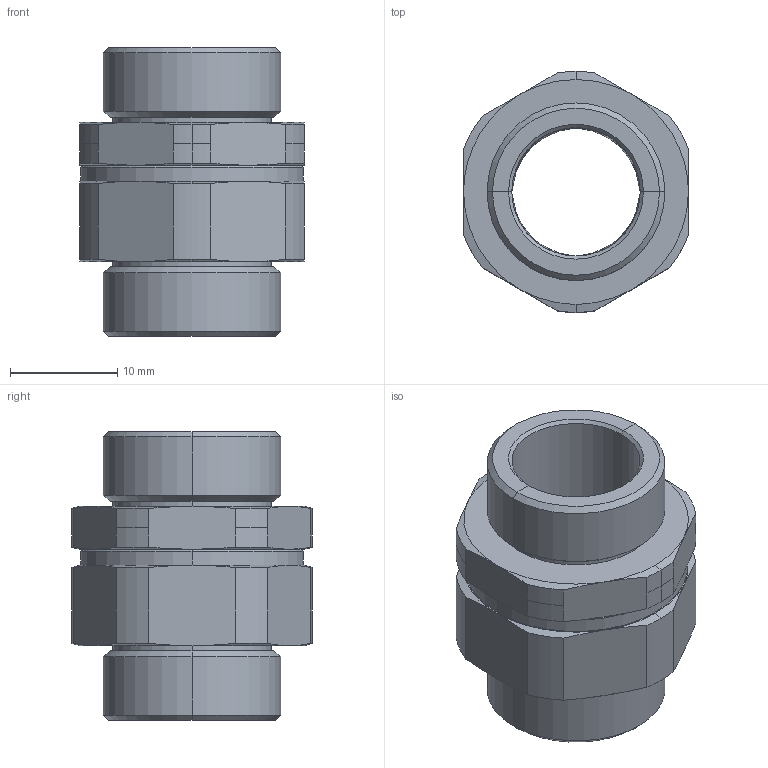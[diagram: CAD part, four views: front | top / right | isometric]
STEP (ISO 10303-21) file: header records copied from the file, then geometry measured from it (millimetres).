
FILE_DESCRIPTION(/* description */ (''),/* implementation_level */ '2;1');
FILE_NAME(/* name */ 'ADT_SMM_G38',/* time_stamp */ '2025-07-11T18:24:17+09:00',/* author */ (''),/* organization */ (''),/* preprocessor_version */ 'ST-DEVELOPER v19.2',/* originating_system */ 'Rhino 8.10',/* authorisation */ '');
FILE_SCHEMA (('CONFIG_CONTROL_DESIGN'));
Length unit declared in the file: millimetre
Products named in the file (1): Document
Bounding box: 21 x 22.5 x 27 mm (x, y, z)
Volume: 4433 mm3; surface area: 4600.3 mm2
Topology: 2 solids, 2 shells, 137 faces, 307 edges, 176 vertices
Faces by surface type: bspline 53, cylinder 46, plane 38
Entity records: 5003 total; most frequent: CARTESIAN_POINT 2458, ORIENTED_EDGE 604, DIRECTION 312, EDGE_CURVE 302, AXIS2_PLACEMENT_3D 198, VERTEX_POINT 170, B_SPLINE_CURVE_WITH_KNOTS 146, EDGE_LOOP 140
